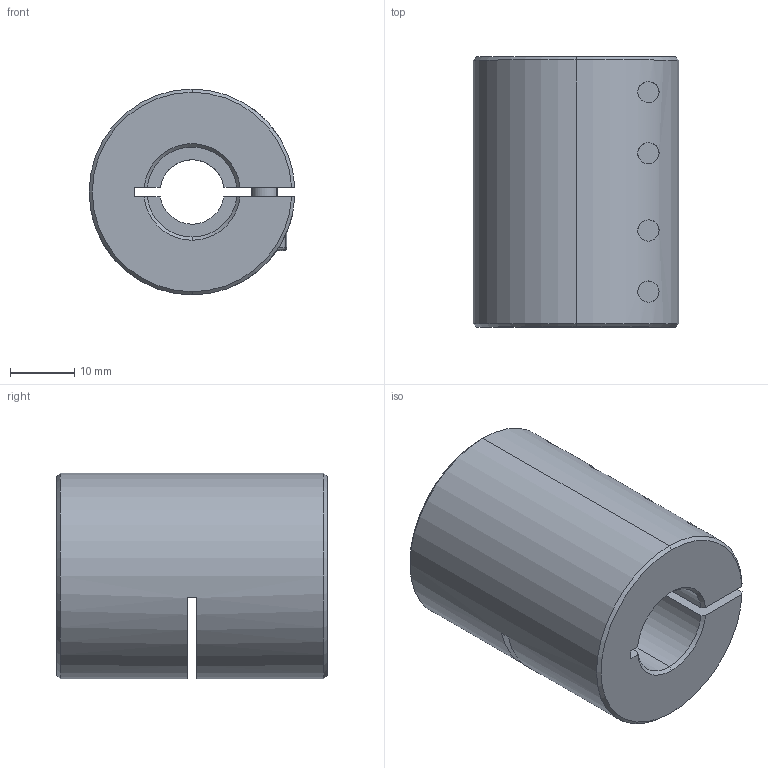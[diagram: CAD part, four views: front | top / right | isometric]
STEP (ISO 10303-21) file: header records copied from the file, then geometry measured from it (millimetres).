
FILE_DESCRIPTION (( 'STEP AP203' ), '1' );
FILE_NAME ('LL-B-D32L42-10-14.STEP', '2021-11-05T07:48:19', ( '' ), ( '' ), 'SwSTEP 2.0', 'SolidWorks 2018', '' );
FILE_SCHEMA (( 'CONFIG_CONTROL_DESIGN' ));
Length unit declared in the file: millimetre
Products named in the file (1): LL-B-D32L42-10-14
Bounding box: 31.98 x 42 x 32 mm (x, y, z)
Volume: 26603.7 mm3; surface area: 10327 mm2
Topology: 1 solids, 1 shells, 193 faces, 492 edges, 309 vertices
Faces by surface type: plane 88, cylinder 77, cone 20, torus 8
Entity records: 6376 total; most frequent: CARTESIAN_POINT 1559, DIRECTION 1037, ORIENTED_EDGE 968, EDGE_CURVE 484, AXIS2_PLACEMENT_3D 403, VERTEX_POINT 309, LINE 231, VECTOR 231
